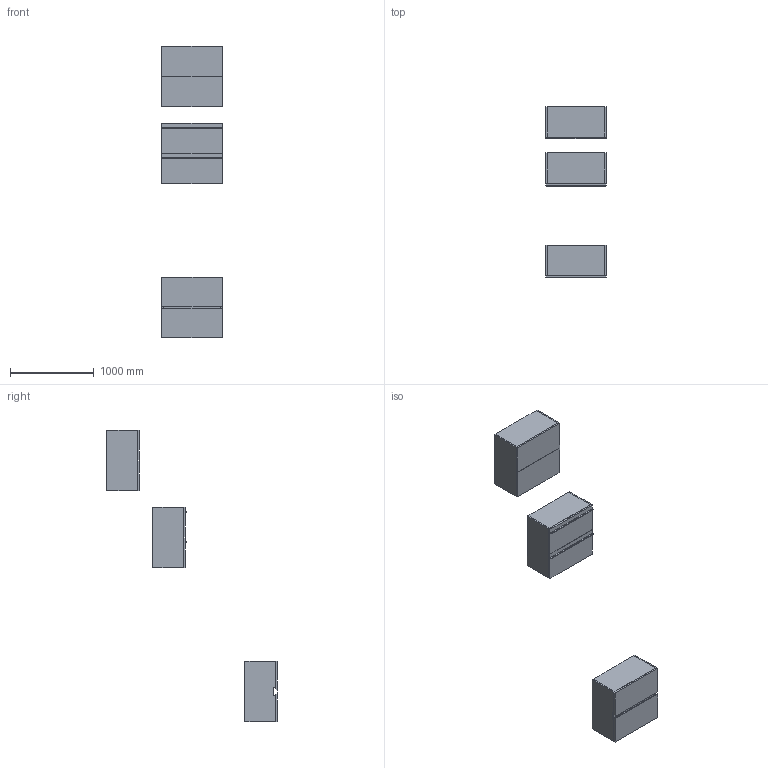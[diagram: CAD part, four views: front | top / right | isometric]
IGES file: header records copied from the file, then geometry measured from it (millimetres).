
Start section: Data from Parasolid IGES Translator 19.0.9, Copyright(c) 2006 Siemens PL M Software. All Rights Reserved.
Global section: file name: noorth-SI-H 72 D 38,8 W 72_8602.igs; native system: By Siemens PLM Incorporated; preprocessor: XPlus GENERIC/IGES 19.0.9; author: Noname; organization: Noname; date: 20200601.115519; units: metre
Bounding box: 720 x 2036 x 3480.32 mm (x, y, z)
Volume: 82612578.7 mm3; surface area: 12977566.5 mm2
Topology: 24 solids, 24 shells, 248 faces, 544 edges, 324 vertices
Faces by surface type: plane 164, extrusion 36, bspline 32, cylinder 16
